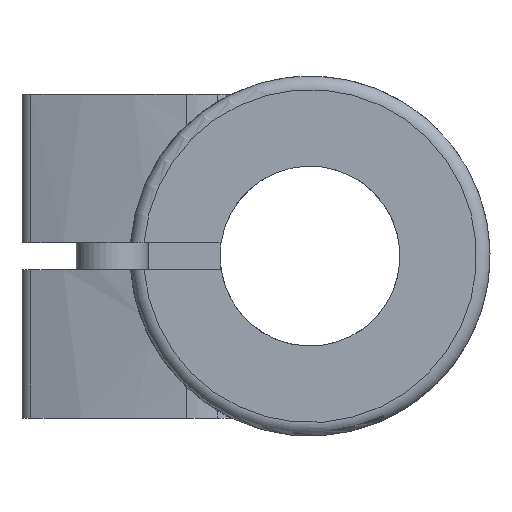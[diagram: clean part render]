
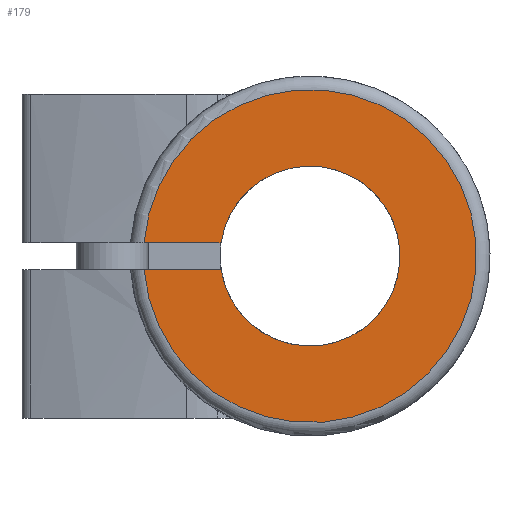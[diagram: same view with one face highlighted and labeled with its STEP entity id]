
A CAD part, left-side view. The second image highlights one B-rep face of the part: STEP entity #179.
In plain terms, the highlighted planar face has unit normal (-1, 0, 0).
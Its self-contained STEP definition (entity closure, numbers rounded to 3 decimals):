
#179 = ADVANCED_FACE( '', ( #479 ), #480, .F. );
#479 = FACE_OUTER_BOUND( '', #841, .T. );
#480 = PLANE( '', #842 );
#841 = EDGE_LOOP( '', ( #1858, #1859, #1860, #1861 ) );
#842 = AXIS2_PLACEMENT_3D( '', #1862, #1863, #1864 );
#1858 = ORIENTED_EDGE( '', *, *, #2615, .F. );
#1859 = ORIENTED_EDGE( '', *, *, #2570, .F. );
#1860 = ORIENTED_EDGE( '', *, *, #2652, .F. );
#1861 = ORIENTED_EDGE( '', *, *, #2580, .F. );
#1862 = CARTESIAN_POINT( '', ( 0., 0., 0. ) );
#1863 = DIRECTION( '', ( 1., 0., 0. ) );
#1864 = DIRECTION( '', ( 0., 0., -1. ) );
#2570 = EDGE_CURVE( '', #3206, #3207, #3208, .T. );
#2580 = EDGE_CURVE( '', #3221, #3223, #3224, .T. );
#2615 = EDGE_CURVE( '', #3207, #3221, #3286, .F. );
#2652 = EDGE_CURVE( '', #3223, #3206, #3340, .T. );
#3206 = VERTEX_POINT( '', #4367 );
#3207 = VERTEX_POINT( '', #4368 );
#3208 = LINE( '', #4369, #4370 );
#3221 = VERTEX_POINT( '', #4400 );
#3223 = VERTEX_POINT( '', #4403 );
#3224 = LINE( '', #4404, #4405 );
#3286 = CIRCLE( '', #4613, 10. );
#3340 = CIRCLE( '', #4768, 18.5 );
#4367 = CARTESIAN_POINT( '', ( 0., 18.439, -1.5 ) );
#4368 = CARTESIAN_POINT( '', ( 0., 9.887, -1.5 ) );
#4369 = CARTESIAN_POINT( '', ( 0., 0., -1.5 ) );
#4370 = VECTOR( '', #5322, 1000. );
#4400 = CARTESIAN_POINT( '', ( 0., 9.887, 1.5 ) );
#4403 = CARTESIAN_POINT( '', ( 0., 18.439, 1.5 ) );
#4404 = CARTESIAN_POINT( '', ( 0., 0., 1.5 ) );
#4405 = VECTOR( '', #5337, 1000. );
#4613 = AXIS2_PLACEMENT_3D( '', #5385, #5386, #5387 );
#4768 = AXIS2_PLACEMENT_3D( '', #5434, #5435, #5436 );
#5322 = DIRECTION( '', ( 0., -1., 0. ) );
#5337 = DIRECTION( '', ( 0., 1., 0. ) );
#5385 = CARTESIAN_POINT( '', ( 0., 0., 0. ) );
#5386 = DIRECTION( '', ( 1., 0., 0. ) );
#5387 = DIRECTION( '', ( 0., 0., -1. ) );
#5434 = CARTESIAN_POINT( '', ( 0., 0., 0. ) );
#5435 = DIRECTION( '', ( 1., 0., 0. ) );
#5436 = DIRECTION( '', ( 0., 0., -1. ) );
